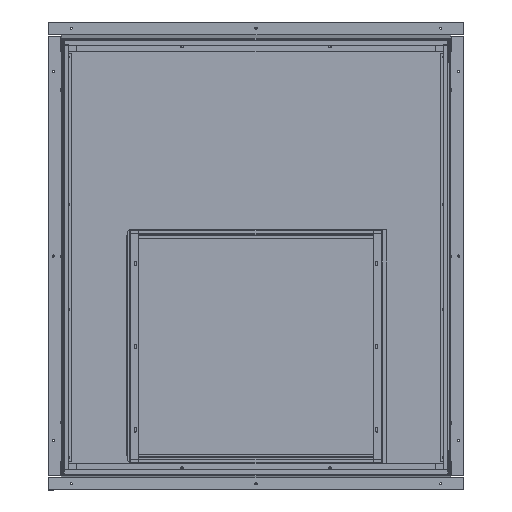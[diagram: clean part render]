
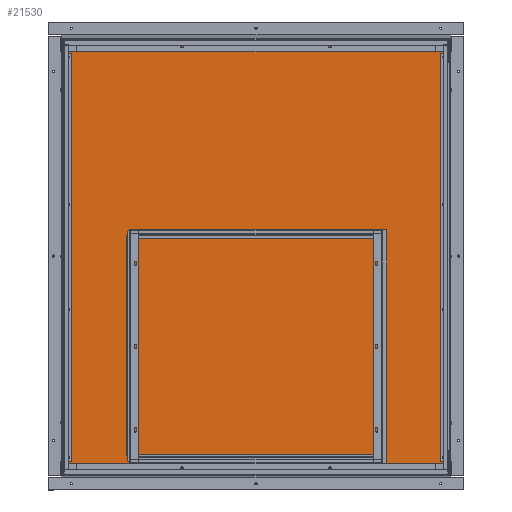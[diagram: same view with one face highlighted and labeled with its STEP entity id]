
A CAD part, top view. The second image highlights one B-rep face of the part: STEP entity #21530.
In plain terms, the highlighted planar face has unit normal (0, -0.012, 1) as drawn and (0, 0, -1) by its records, which use the part's own axes.
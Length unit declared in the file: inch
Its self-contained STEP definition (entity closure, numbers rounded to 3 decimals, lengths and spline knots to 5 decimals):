
#283 = DIRECTION ( 'NONE',  ( 0., 0., 1. ) ) ;
#504 = CIRCLE ( 'NONE', #547, 0.125 ) ;
#547 = AXIS2_PLACEMENT_3D ( 'NONE', #10522, #283, #12234 ) ;
#555 = LINE ( 'NONE', #4620, #1648 ) ;
#736 = FACE_BOUND ( 'NONE', #6700, .T. ) ;
#1286 = ORIENTED_EDGE ( 'NONE', *, *, #16798, .T. ) ;
#1366 = DIRECTION ( 'NONE',  ( 1., 0., 0. ) ) ;
#1622 = EDGE_CURVE ( 'NONE', #19094, #13354, #5323, .T. ) ;
#1648 = VECTOR ( 'NONE', #4170, 39.37008 ) ;
#1875 = VECTOR ( 'NONE', #17978, 39.37008 ) ;
#1898 = CARTESIAN_POINT ( 'NONE',  ( -17.38602, 4.03991, -0.023 ) ) ;
#1992 = FACE_BOUND ( 'NONE', #18721, .T. ) ;
#2416 = DIRECTION ( 'NONE',  ( 0., -1., 0. ) ) ;
#2895 = CARTESIAN_POINT ( 'NONE',  ( -17.63602, 43.28991, -0.023 ) ) ;
#3521 = CARTESIAN_POINT ( 'NONE',  ( -17.38602, 43.28991, -0.023 ) ) ;
#3523 = CARTESIAN_POINT ( 'NONE',  ( 23.23898, 4.03991, -0.023 ) ) ;
#3550 = ORIENTED_EDGE ( 'NONE', *, *, #3843, .F. ) ;
#3564 = FACE_BOUND ( 'NONE', #15821, .T. ) ;
#3843 = EDGE_CURVE ( 'NONE', #5942, #19094, #555, .T. ) ;
#3864 = AXIS2_PLACEMENT_3D ( 'NONE', #8320, #10358, #15512 ) ;
#3889 = AXIS2_PLACEMENT_3D ( 'NONE', #16583, #6357, #18378 ) ;
#4170 = DIRECTION ( 'NONE',  ( 1., 0., 0. ) ) ;
#4246 = EDGE_LOOP ( 'NONE', ( #20984, #8530 ) ) ;
#4368 = ORIENTED_EDGE ( 'NONE', *, *, #16069, .T. ) ;
#4620 = CARTESIAN_POINT ( 'NONE',  ( -17.9329, -0.00906, -0.023 ) ) ;
#4657 = ORIENTED_EDGE ( 'NONE', *, *, #17490, .T. ) ;
#4948 = DIRECTION ( 'NONE',  ( 1., 0., 0. ) ) ;
#5106 = AXIS2_PLACEMENT_3D ( 'NONE', #15231, #10441, #1366 ) ;
#5323 = LINE ( 'NONE', #17984, #1875 ) ;
#5772 = CIRCLE ( 'NONE', #3864, 0.125 ) ;
#5942 = VERTEX_POINT ( 'NONE', #7161 ) ;
#5982 = DIRECTION ( 'NONE',  ( 0., 0., 1. ) ) ;
#6284 = PLANE ( 'NONE',  #3889 ) ;
#6357 = DIRECTION ( 'NONE',  ( 0., 0., 1. ) ) ;
#6563 = FACE_OUTER_BOUND ( 'NONE', #12103, .T. ) ;
#6700 = EDGE_LOOP ( 'NONE', ( #14224, #4657 ) ) ;
#6874 = ORIENTED_EDGE ( 'NONE', *, *, #19587, .F. ) ;
#7137 = DIRECTION ( 'NONE',  ( 0., 0., 1. ) ) ;
#7161 = CARTESIAN_POINT ( 'NONE',  ( -17.9329, -0.00906, -0.023 ) ) ;
#7418 = ORIENTED_EDGE ( 'NONE', *, *, #17471, .F. ) ;
#7532 = CIRCLE ( 'NONE', #16533, 0.125 ) ;
#7787 = CARTESIAN_POINT ( 'NONE',  ( -17.63602, 4.03991, -0.023 ) ) ;
#8037 = DIRECTION ( 'NONE',  ( 0., 0., 1. ) ) ;
#8320 = CARTESIAN_POINT ( 'NONE',  ( -17.51102, 43.28991, -0.023 ) ) ;
#8530 = ORIENTED_EDGE ( 'NONE', *, *, #15324, .T. ) ;
#8640 = CARTESIAN_POINT ( 'NONE',  ( -17.9329, 47.33889, -0.023 ) ) ;
#8766 = FACE_BOUND ( 'NONE', #4246, .T. ) ;
#9288 = VECTOR ( 'NONE', #17215, 39.37008 ) ;
#9506 = CARTESIAN_POINT ( 'NONE',  ( 23.48898, 43.28991, -0.023 ) ) ;
#10044 = VERTEX_POINT ( 'NONE', #1898 ) ;
#10358 = DIRECTION ( 'NONE',  ( 0., 0., 1. ) ) ;
#10394 = AXIS2_PLACEMENT_3D ( 'NONE', #14368, #14364, #14343 ) ;
#10441 = DIRECTION ( 'NONE',  ( 0., 0., 1. ) ) ;
#10522 = CARTESIAN_POINT ( 'NONE',  ( 23.36398, 4.03991, -0.023 ) ) ;
#11175 = VERTEX_POINT ( 'NONE', #15080 ) ;
#11255 = CIRCLE ( 'NONE', #15692, 0.125 ) ;
#11687 = CARTESIAN_POINT ( 'NONE',  ( -17.9329, 47.33889, -0.023 ) ) ;
#12103 = EDGE_LOOP ( 'NONE', ( #7418, #16499, #3550, #6874 ) ) ;
#12234 = DIRECTION ( 'NONE',  ( 1., 0., 0. ) ) ;
#12431 = EDGE_CURVE ( 'NONE', #18569, #21225, #14347, .T. ) ;
#12445 = CARTESIAN_POINT ( 'NONE',  ( 23.23898, 43.28991, -0.023 ) ) ;
#12501 = CIRCLE ( 'NONE', #16568, 0.125 ) ;
#12677 = CARTESIAN_POINT ( 'NONE',  ( -17.9329, -0.00906, -0.023 ) ) ;
#12838 = VERTEX_POINT ( 'NONE', #7787 ) ;
#13317 = AXIS2_PLACEMENT_3D ( 'NONE', #18281, #8037, #19964 ) ;
#13354 = VERTEX_POINT ( 'NONE', #16554 ) ;
#13577 = EDGE_CURVE ( 'NONE', #11175, #14794, #17477, .T. ) ;
#14224 = ORIENTED_EDGE ( 'NONE', *, *, #13577, .T. ) ;
#14343 = DIRECTION ( 'NONE',  ( 1., 0., 0. ) ) ;
#14347 = CIRCLE ( 'NONE', #5106, 0.125 ) ;
#14364 = DIRECTION ( 'NONE',  ( 0., 0., 1. ) ) ;
#14368 = CARTESIAN_POINT ( 'NONE',  ( 23.36398, 4.03991, -0.023 ) ) ;
#14794 = VERTEX_POINT ( 'NONE', #3523 ) ;
#14879 = VERTEX_POINT ( 'NONE', #2895 ) ;
#15080 = CARTESIAN_POINT ( 'NONE',  ( 23.48898, 4.03991, -0.023 ) ) ;
#15231 = CARTESIAN_POINT ( 'NONE',  ( 23.36398, 43.28991, -0.023 ) ) ;
#15324 = EDGE_CURVE ( 'NONE', #14879, #21789, #5772, .T. ) ;
#15502 = VECTOR ( 'NONE', #2416, 39.37008 ) ;
#15512 = DIRECTION ( 'NONE',  ( 1., 0., 0. ) ) ;
#15548 = EDGE_CURVE ( 'NONE', #10044, #12838, #7532, .T. ) ;
#15624 = LINE ( 'NONE', #12677, #15502 ) ;
#15692 = AXIS2_PLACEMENT_3D ( 'NONE', #17432, #7137, #19133 ) ;
#15821 = EDGE_LOOP ( 'NONE', ( #16121, #4368 ) ) ;
#16069 = EDGE_CURVE ( 'NONE', #21225, #18569, #11255, .T. ) ;
#16121 = ORIENTED_EDGE ( 'NONE', *, *, #12431, .T. ) ;
#16293 = CARTESIAN_POINT ( 'NONE',  ( -17.51102, 43.28991, -0.023 ) ) ;
#16499 = ORIENTED_EDGE ( 'NONE', *, *, #1622, .F. ) ;
#16533 = AXIS2_PLACEMENT_3D ( 'NONE', #19245, #17330, #4948 ) ;
#16535 = LINE ( 'NONE', #8640, #9288 ) ;
#16554 = CARTESIAN_POINT ( 'NONE',  ( 23.78585, 47.33889, -0.023 ) ) ;
#16568 = AXIS2_PLACEMENT_3D ( 'NONE', #16293, #5982, #18012 ) ;
#16583 = CARTESIAN_POINT ( 'NONE',  ( -17.9329, -0.00906, -0.023 ) ) ;
#16798 = EDGE_CURVE ( 'NONE', #12838, #10044, #16815, .T. ) ;
#16815 = CIRCLE ( 'NONE', #13317, 0.125 ) ;
#17215 = DIRECTION ( 'NONE',  ( -1., 0., 0. ) ) ;
#17330 = DIRECTION ( 'NONE',  ( 0., 0., 1. ) ) ;
#17432 = CARTESIAN_POINT ( 'NONE',  ( 23.36398, 43.28991, -0.023 ) ) ;
#17471 = EDGE_CURVE ( 'NONE', #13354, #21594, #16535, .T. ) ;
#17477 = CIRCLE ( 'NONE', #10394, 0.125 ) ;
#17490 = EDGE_CURVE ( 'NONE', #14794, #11175, #504, .T. ) ;
#17675 = CARTESIAN_POINT ( 'NONE',  ( 23.78585, -0.00906, -0.023 ) ) ;
#17753 = EDGE_CURVE ( 'NONE', #21789, #14879, #12501, .T. ) ;
#17978 = DIRECTION ( 'NONE',  ( 0., 1., 0. ) ) ;
#17984 = CARTESIAN_POINT ( 'NONE',  ( 23.78585, -0.00906, -0.023 ) ) ;
#18012 = DIRECTION ( 'NONE',  ( 1., 0., 0. ) ) ;
#18281 = CARTESIAN_POINT ( 'NONE',  ( -17.51102, 4.03991, -0.023 ) ) ;
#18378 = DIRECTION ( 'NONE',  ( 1., 0., 0. ) ) ;
#18569 = VERTEX_POINT ( 'NONE', #9506 ) ;
#18721 = EDGE_LOOP ( 'NONE', ( #20621, #1286 ) ) ;
#19094 = VERTEX_POINT ( 'NONE', #17675 ) ;
#19133 = DIRECTION ( 'NONE',  ( 1., 0., 0. ) ) ;
#19245 = CARTESIAN_POINT ( 'NONE',  ( -17.51102, 4.03991, -0.023 ) ) ;
#19587 = EDGE_CURVE ( 'NONE', #21594, #5942, #15624, .T. ) ;
#19964 = DIRECTION ( 'NONE',  ( 1., 0., 0. ) ) ;
#20621 = ORIENTED_EDGE ( 'NONE', *, *, #15548, .T. ) ;
#20984 = ORIENTED_EDGE ( 'NONE', *, *, #17753, .T. ) ;
#21225 = VERTEX_POINT ( 'NONE', #12445 ) ;
#21530 = ADVANCED_FACE ( 'NONE', ( #6563, #8766, #3564, #1992, #736 ), #6284, .F. ) ;
#21594 = VERTEX_POINT ( 'NONE', #11687 ) ;
#21789 = VERTEX_POINT ( 'NONE', #3521 ) ;
